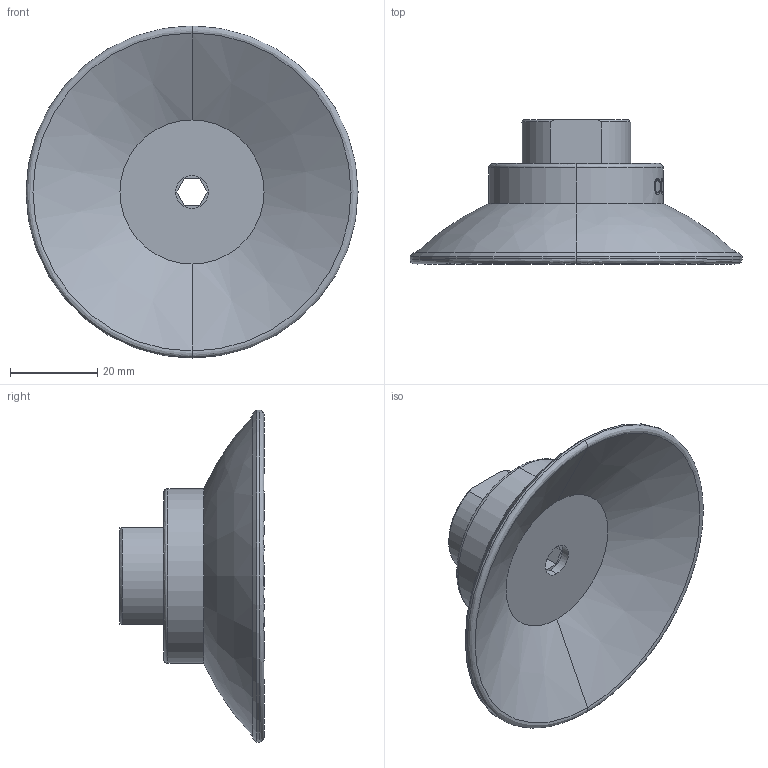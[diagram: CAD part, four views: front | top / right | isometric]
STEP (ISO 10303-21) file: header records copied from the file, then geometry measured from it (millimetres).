
FILE_DESCRIPTION (( 'STEP AP214' ), '1' );
FILE_NAME ('VFC75.STEP', '2019-11-25T07:42:09', ( '微软用户' ), ( '微软中国' ), 'SwSTEP 2.0', 'SolidWorks 2016', '' );
FILE_SCHEMA (( 'AUTOMOTIVE_DESIGN' ));
Length unit declared in the file: millimetre
Products named in the file (1): VFC75
Bounding box: 76 x 33 x 76 mm (x, y, z)
Volume: 33179.5 mm3; surface area: 13094.5 mm2
Topology: 1 solids, 1 shells, 93 faces, 228 edges, 148 vertices
Faces by surface type: bspline 35, plane 28, cylinder 20, cone 10
Entity records: 13445 total; most frequent: CARTESIAN_POINT 10359, ORIENTED_EDGE 456, DIRECTION 352, EDGE_CURVE 228, VERTEX_POINT 148, AXIS2_PLACEMENT_3D 129, EDGE_LOOP 106, UNCERTAINTY_MEASURE_WITH_UNIT 96
